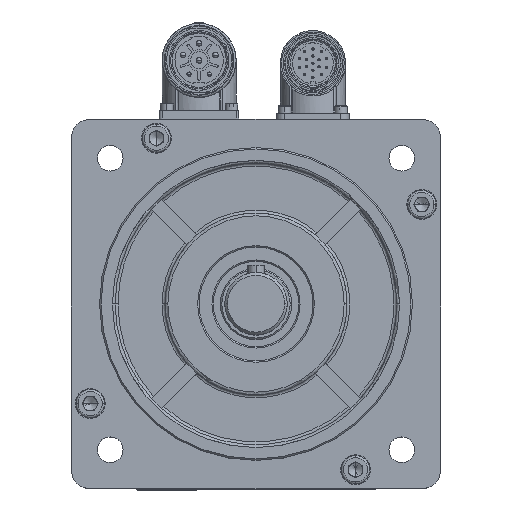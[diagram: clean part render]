
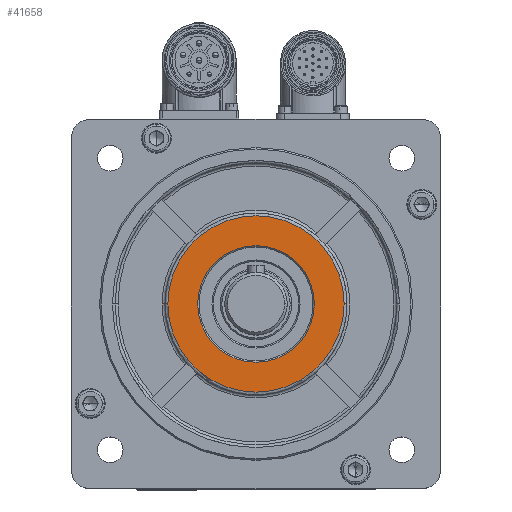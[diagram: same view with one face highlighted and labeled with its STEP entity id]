
A CAD part, top view. The second image highlights one B-rep face of the part: STEP entity #41658.
In plain terms, the highlighted planar face has unit normal (0, 0, 1).
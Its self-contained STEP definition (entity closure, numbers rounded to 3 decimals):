
#1178 = CIRCLE ( 'NONE', #32657, 20.5 ) ;
#4837 = CARTESIAN_POINT ( 'NONE',  ( 31., 0., 30.5 ) ) ;
#6536 = DIRECTION ( 'NONE',  ( 0., 0., -1. ) ) ;
#6711 = AXIS2_PLACEMENT_3D ( 'NONE', #18901, #51523, #23960 ) ;
#10360 = CIRCLE ( 'NONE', #6711, 31. ) ;
#11740 = ORIENTED_EDGE ( 'NONE', *, *, #14711, .T. ) ;
#13401 = AXIS2_PLACEMENT_3D ( 'NONE', #49858, #22545, #33313 ) ;
#14181 = AXIS2_PLACEMENT_3D ( 'NONE', #45385, #6536, #66680 ) ;
#14711 = EDGE_CURVE ( 'NONE', #70380, #42481, #59156, .T. ) ;
#16162 = EDGE_CURVE ( 'NONE', #62503, #26895, #38954, .T. ) ;
#18287 = PLANE ( 'NONE',  #14181 ) ;
#18901 = CARTESIAN_POINT ( 'NONE',  ( 0., 0., 30.5 ) ) ;
#22545 = DIRECTION ( 'NONE',  ( 0., 0., -1. ) ) ;
#23960 = DIRECTION ( 'NONE',  ( -1., 0., 0. ) ) ;
#26895 = VERTEX_POINT ( 'NONE', #35116 ) ;
#27157 = CARTESIAN_POINT ( 'NONE',  ( -20.5, 0., 30.5 ) ) ;
#28320 = FACE_OUTER_BOUND ( 'NONE', #47108, .T. ) ;
#31416 = DIRECTION ( 'NONE',  ( 0., 0., -1. ) ) ;
#31791 = EDGE_LOOP ( 'NONE', ( #64954, #11740 ) ) ;
#31870 = CARTESIAN_POINT ( 'NONE',  ( 0., 0., 30.5 ) ) ;
#32657 = AXIS2_PLACEMENT_3D ( 'NONE', #31870, #31416, #70434 ) ;
#33313 = DIRECTION ( 'NONE',  ( -1., 0., 0. ) ) ;
#34468 = ORIENTED_EDGE ( 'NONE', *, *, #16162, .T. ) ;
#35116 = CARTESIAN_POINT ( 'NONE',  ( -31., 0., 30.5 ) ) ;
#38954 = CIRCLE ( 'NONE', #44813, 31. ) ;
#41658 = ADVANCED_FACE ( 'NONE', ( #28320, #60022 ), #18287, .F. ) ;
#42481 = VERTEX_POINT ( 'NONE', #63699 ) ;
#44452 = DIRECTION ( 'NONE',  ( 0., 0., 1. ) ) ;
#44813 = AXIS2_PLACEMENT_3D ( 'NONE', #66694, #44452, #55479 ) ;
#45385 = CARTESIAN_POINT ( 'NONE',  ( -58.113, -58.113, 30.5 ) ) ;
#46194 = EDGE_CURVE ( 'NONE', #26895, #62503, #10360, .T. ) ;
#47076 = ORIENTED_EDGE ( 'NONE', *, *, #46194, .T. ) ;
#47108 = EDGE_LOOP ( 'NONE', ( #47076, #34468 ) ) ;
#48422 = EDGE_CURVE ( 'NONE', #42481, #70380, #1178, .T. ) ;
#49858 = CARTESIAN_POINT ( 'NONE',  ( 0., 0., 30.5 ) ) ;
#51523 = DIRECTION ( 'NONE',  ( 0., 0., 1. ) ) ;
#55479 = DIRECTION ( 'NONE',  ( -1., 0., 0. ) ) ;
#59156 = CIRCLE ( 'NONE', #13401, 20.5 ) ;
#60022 = FACE_BOUND ( 'NONE', #31791, .T. ) ;
#62503 = VERTEX_POINT ( 'NONE', #4837 ) ;
#63699 = CARTESIAN_POINT ( 'NONE',  ( 20.5, 0., 30.5 ) ) ;
#64954 = ORIENTED_EDGE ( 'NONE', *, *, #48422, .T. ) ;
#66680 = DIRECTION ( 'NONE',  ( -1., 0., 0. ) ) ;
#66694 = CARTESIAN_POINT ( 'NONE',  ( 0., 0., 30.5 ) ) ;
#70380 = VERTEX_POINT ( 'NONE', #27157 ) ;
#70434 = DIRECTION ( 'NONE',  ( -1., 0., 0. ) ) ;
